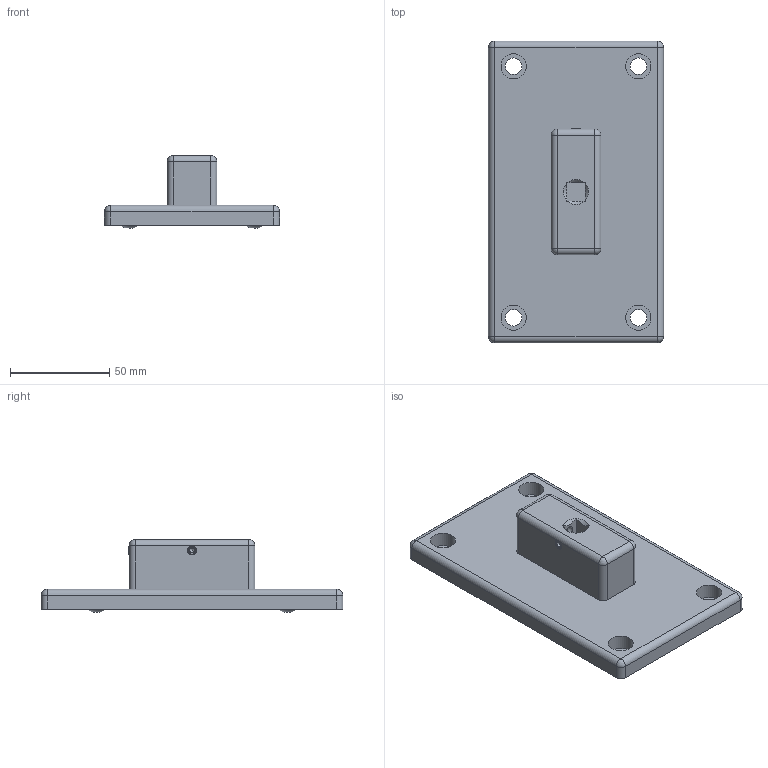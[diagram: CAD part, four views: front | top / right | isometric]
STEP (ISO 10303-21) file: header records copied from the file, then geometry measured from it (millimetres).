
FILE_DESCRIPTION((''),'2;1');
FILE_NAME('F:\CAD files\Itr\3D MARKETING MODELS\ACCESSORIES\AC1010\AC1010.stp','2017-04-24T12:20:40',('mlampen'),(''),'Autodesk Inventor 2010','Autodesk Inventor 2010','');
FILE_SCHEMA(('AUTOMOTIVE_DESIGN { 1 0 10303 214 1 1 1 1 }'));
Length unit declared in the file: inch
Products named in the file (1): Part2
Bounding box: 88.39 x 152.4 x 36.83 mm (x, y, z)
Volume: 166899.6 mm3; surface area: 40171.2 mm2
Topology: 11 solids, 11 shells, 264 faces, 636 edges, 380 vertices
Faces by surface type: plane 94, cone 84, cylinder 72, sphere 12, torus 2
Full cylindrical faces by diameter (mm): 4.178 x12, 4.724 x12, 6.528 x2, 8.382 x6, 8.636 x4, 10.16 x4, 12.7 x4
Entity records: 7972 total; most frequent: CARTESIAN_POINT 2575, DIRECTION 1092, ORIENTED_EDGE 996, EDGE_CURVE 498, AXIS2_PLACEMENT_3D 481, EDGE_LOOP 382, VERTEX_POINT 342, FACE_OUTER_BOUND 264
